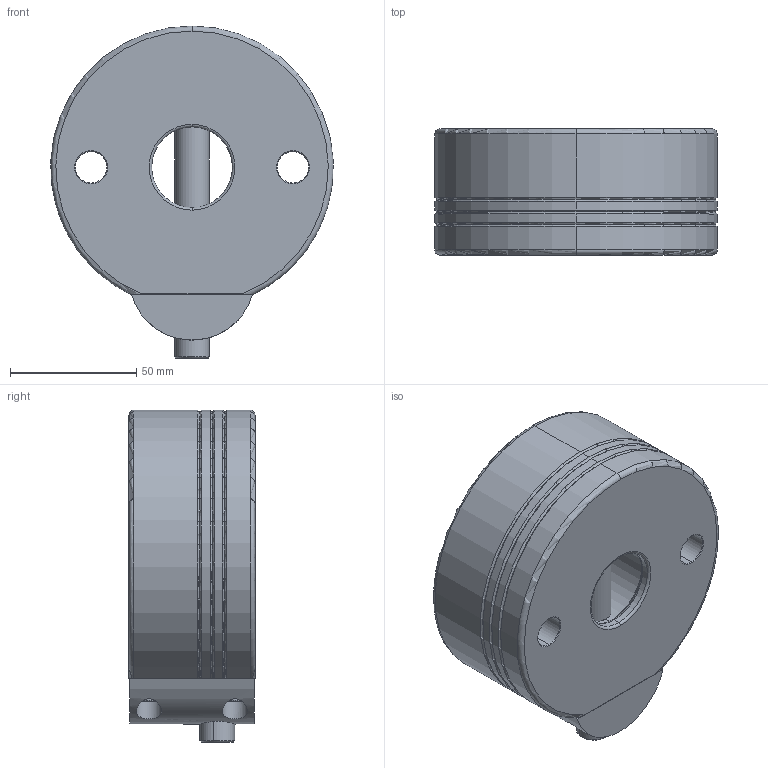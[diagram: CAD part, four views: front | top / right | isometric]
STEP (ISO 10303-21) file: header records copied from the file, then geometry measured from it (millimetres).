
FILE_DESCRIPTION (( 'STEP AP214' ), '1' );
FILE_NAME ('LSD-10-.STEP', '2019-11-21T06:26:04', ( 'PC' ), ( 'Microsoft' ), 'SwSTEP 2.0', 'SolidWorks 2018', '' );
FILE_SCHEMA (( 'AUTOMOTIVE_DESIGN' ));
Length unit declared in the file: millimetre
Products named in the file (8): 蹟裝-2; LSD-10-; 結輸; 耜嘐裝; 9.25x1.78-nbr70; socket head cap screw_din_DIN 912 M5 x 12 --- 12N; 蹟裝; SDWXP1
Assembly tree (11 placements, depth 2):
  LSD-10-
    SDWXP1
    蹟裝
    結輸
    耜嘐裝  x2
    socket head cap screw_din_DIN 912 M5 x 12 --- 12N  x4
    9.25x1.78-nbr70
    蹟裝-2
Bounding box: 111.91 x 50 x 131.61 mm (x, y, z)
Volume: 447576.7 mm3; surface area: 60673.3 mm2
Topology: 11 solids, 11 shells, 340 faces, 802 edges, 481 vertices
Faces by surface type: plane 104, cone 89, cylinder 87, torus 42, bspline 18
Entity records: 10814 total; most frequent: CARTESIAN_POINT 4782, DIRECTION 1149, ORIENTED_EDGE 1140, EDGE_CURVE 570, AXIS2_PLACEMENT_3D 490, VERTEX_POINT 355, EDGE_LOOP 271, CIRCLE 253
